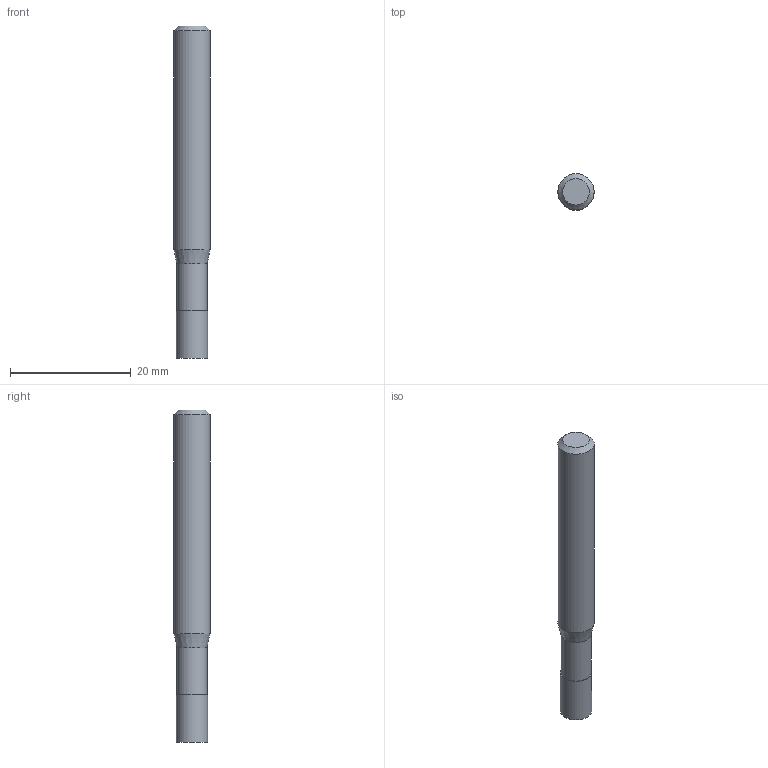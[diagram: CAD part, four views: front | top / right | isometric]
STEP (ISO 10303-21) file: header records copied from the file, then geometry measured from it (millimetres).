
FILE_DESCRIPTION((''),'2;1');
FILE_NAME('C:\Users\nsx150\AppData\Local\Temp\Mastercam 2021\EUJSUNXURU\TEMP.step','2021-04-22T10:28:36',(''),(''),'STEP Write','Mastercam 2021 ... CNC Software, Inc.','');
FILE_SCHEMA(('AUTOMOTIVE_DESIGN'));
Length unit declared in the file: millimetre
Products named in the file (1): None
Bounding box: 6 x 6 x 55 mm (x, y, z)
Volume: 1416.8 mm3; surface area: 1070.5 mm2
Topology: 2 solids, 2 shells, 9 faces, 12 edges, 7 vertices
Faces by surface type: plane 4, cylinder 3, cone 2
Full cylindrical faces by diameter (mm): 5 x1, 5.2 x1, 6 x1
Entity records: 211 total; most frequent: DIRECTION 36, CARTESIAN_POINT 25, AXIS2_PLACEMENT_3D 18, ORIENTED_EDGE 14, EDGE_LOOP 14, STYLED_ITEM 12, ADVANCED_FACE 9, FACE_BOUND 8
